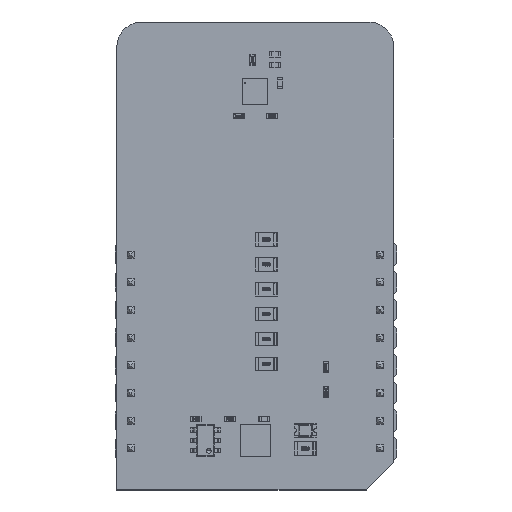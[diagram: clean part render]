
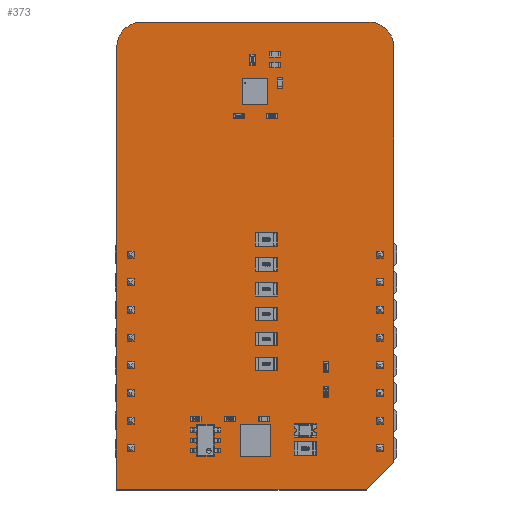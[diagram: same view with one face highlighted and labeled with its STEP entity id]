
A CAD part, top view. The second image highlights one B-rep face of the part: STEP entity #373.
In plain terms, the highlighted planar face has unit normal (0, 0, 1).
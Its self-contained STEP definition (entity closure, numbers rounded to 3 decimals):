
#144 = VERTEX_POINT('',#145);
#145 = CARTESIAN_POINT('',(-1.27,-3.81,1.59));
#151 = EDGE_CURVE('',#144,#152,#154,.T.);
#152 = VERTEX_POINT('',#153);
#153 = CARTESIAN_POINT('',(-1.27,36.83,1.59));
#154 = LINE('',#155,#156);
#155 = CARTESIAN_POINT('',(-1.27,-3.81,1.59));
#156 = VECTOR('',#157,1.);
#157 = DIRECTION('',(0.,1.,0.));
#182 = EDGE_CURVE('',#152,#183,#185,.T.);
#183 = VERTEX_POINT('',#184);
#184 = CARTESIAN_POINT('',(1.016,39.116,1.59));
#185 = CIRCLE('',#186,2.288);
#186 = AXIS2_PLACEMENT_3D('',#187,#188,#189);
#187 = CARTESIAN_POINT('',(1.018,36.828,1.59));
#188 = DIRECTION('',(0.,0.,-1.));
#189 = DIRECTION('',(-1.,0.001,0.));
#215 = EDGE_CURVE('',#183,#216,#218,.T.);
#216 = VERTEX_POINT('',#217);
#217 = CARTESIAN_POINT('',(21.844,39.116,1.59));
#218 = LINE('',#219,#220);
#219 = CARTESIAN_POINT('',(1.016,39.116,1.59));
#220 = VECTOR('',#221,1.);
#221 = DIRECTION('',(1.,0.,0.));
#246 = EDGE_CURVE('',#216,#247,#249,.T.);
#247 = VERTEX_POINT('',#248);
#248 = CARTESIAN_POINT('',(24.13,36.83,1.59));
#249 = CIRCLE('',#250,2.288);
#250 = AXIS2_PLACEMENT_3D('',#251,#252,#253);
#251 = CARTESIAN_POINT('',(21.842,36.828,1.59));
#252 = DIRECTION('',(0.,0.,-1.));
#253 = DIRECTION('',(0.001,1.,0.));
#279 = EDGE_CURVE('',#247,#280,#282,.T.);
#280 = VERTEX_POINT('',#281);
#281 = CARTESIAN_POINT('',(24.13,-1.27,1.59));
#282 = LINE('',#283,#284);
#283 = CARTESIAN_POINT('',(24.13,36.83,1.59));
#284 = VECTOR('',#285,1.);
#285 = DIRECTION('',(0.,-1.,0.));
#310 = EDGE_CURVE('',#280,#311,#313,.T.);
#311 = VERTEX_POINT('',#312);
#312 = CARTESIAN_POINT('',(21.59,-3.81,1.59));
#313 = LINE('',#314,#315);
#314 = CARTESIAN_POINT('',(24.13,-1.27,1.59));
#315 = VECTOR('',#316,1.);
#316 = DIRECTION('',(-0.707,-0.707,0.));
#341 = EDGE_CURVE('',#311,#144,#342,.T.);
#342 = LINE('',#343,#344);
#343 = CARTESIAN_POINT('',(21.59,-3.81,1.59));
#344 = VECTOR('',#345,1.);
#345 = DIRECTION('',(-1.,0.,0.));
#373 = ADVANCED_FACE('',(#374),#383,.F.);
#374 = FACE_BOUND('',#375,.F.);
#375 = EDGE_LOOP('',(#376,#377,#378,#379,#380,#381,#382));
#376 = ORIENTED_EDGE('',*,*,#151,.T.);
#377 = ORIENTED_EDGE('',*,*,#182,.T.);
#378 = ORIENTED_EDGE('',*,*,#215,.T.);
#379 = ORIENTED_EDGE('',*,*,#246,.T.);
#380 = ORIENTED_EDGE('',*,*,#279,.T.);
#381 = ORIENTED_EDGE('',*,*,#310,.T.);
#382 = ORIENTED_EDGE('',*,*,#341,.T.);
#383 = PLANE('',#384);
#384 = AXIS2_PLACEMENT_3D('',#385,#386,#387);
#385 = CARTESIAN_POINT('',(11.278,17.566,1.59));
#386 = DIRECTION('',(-0.,-0.,-1.));
#387 = DIRECTION('',(-1.,0.,0.));
